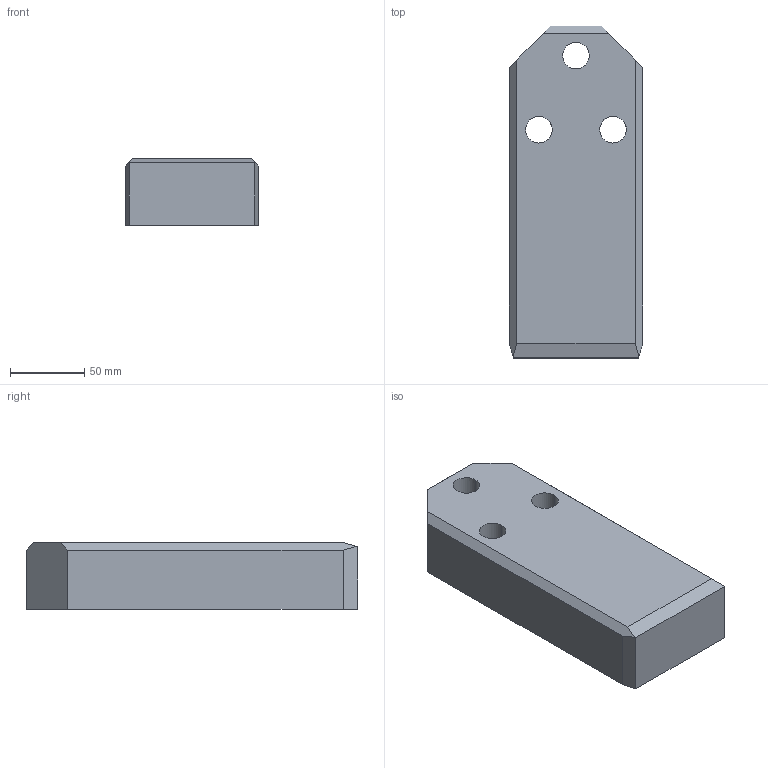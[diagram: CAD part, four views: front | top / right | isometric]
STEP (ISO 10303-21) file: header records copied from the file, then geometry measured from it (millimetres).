
FILE_DESCRIPTION(('CATIA V5 STEP Exchange'),'2;1');
FILE_NAME('C:\Users\borellobunino\Desktop\3D X SITO CF\A927\GSB_OILLESS_G2290509022445\STEP-2.03\A927-90X224X45.stp','2019-07-15T18:08:36+00:00',('none'),('none'),'CATIA Version 5 Release 20 GA (IN-10)','CATIA V5 STEP AP203','none');
FILE_SCHEMA(('CONFIG_CONTROL_DESIGN'));
Length unit declared in the file: millimetre
Products named in the file (1): A927-90X224X45
Bounding box: 90 x 224 x 45 mm (x, y, z)
Volume: 812034.7 mm3; surface area: 71198.5 mm2
Topology: 1 solids, 1 shells, 35 faces, 84 edges, 54 vertices
Faces by surface type: plane 17, cylinder 12, cone 6
Entity records: 1296 total; most frequent: CARTESIAN_POINT 450, ORIENTED_EDGE 168, DIRECTION 142, EDGE_CURVE 84, AXIS2_PLACEMENT_3D 54, VECTOR 54, LINE 54, VERTEX_POINT 54
